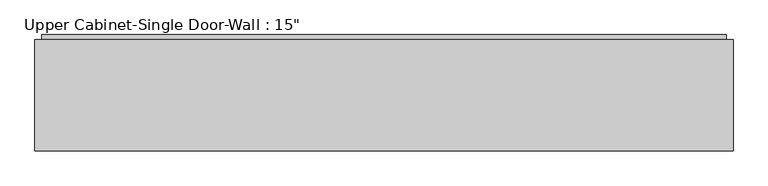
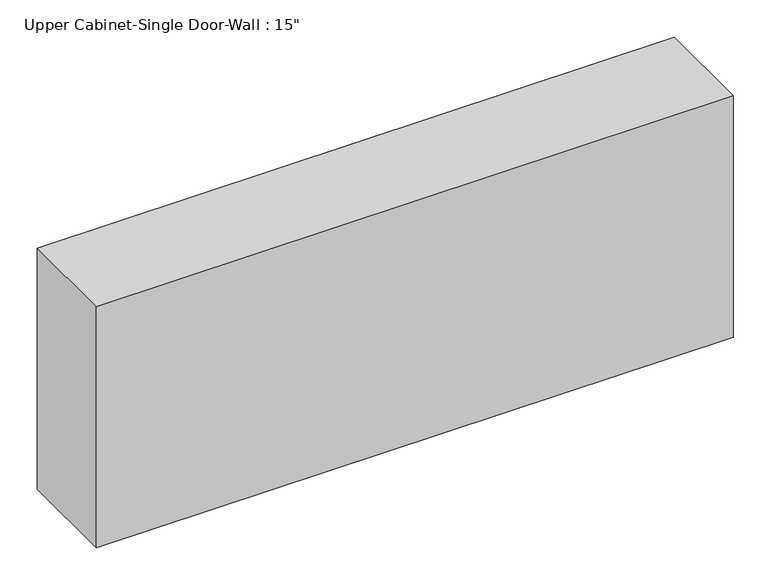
"""IFC4 building model written with IfcOpenShell, lengths in millimetres: furniture geometry."""

import ifcopenshell
import ifcopenshell.guid

model = None  # the IFC model being written
_history = None  # IfcOwnerHistory: only IFC2X3 demands one
_inside = {}  # id of a spatial element -> (the spatial element, [elements in it])
_under = {}  # id of a project, library or spatial element -> (it, [spatial elements below it])
_declared = {}  # id of a project -> (the project, [libraries it declares])
_typed = {}  # id of a type object -> (the type object, [elements of that type])
_made_of = {}  # id of a material, layer set ... -> (it, [elements and type objects made of it])


def new_model(schema):
    """Start an empty IFC model of exactly this schema.

    Asked for "IFC4X3", IfcOpenShell would pick the latest addendum, in which some entities
    have other attributes; the version numbers below select the first issue.
    IFC2X3 requires an IfcOwnerHistory on every rooted entity: one is made here for all.
    """
    global model, _history
    if schema == "IFC4X3":
        model = ifcopenshell.file(schema_version=(4, 3, 0, 0))
    else:
        model = ifcopenshell.file(schema=schema)
    _inside.clear()
    _under.clear()
    _declared.clear()
    _typed.clear()
    _made_of.clear()
    _history = None
    if model.schema == "IFC2X3":
        org = make("IfcOrganization", Name="unknown")
        user = make(
            "IfcPersonAndOrganization",
            ThePerson=make("IfcPerson", FamilyName="unknown"),
            TheOrganization=org,
        )
        app = make(
            "IfcApplication",
            ApplicationDeveloper=org,
            Version="unknown",
            ApplicationFullName="unknown",
            ApplicationIdentifier="unknown",
        )
        _history = make(
            "IfcOwnerHistory",
            OwningUser=user,
            OwningApplication=app,
            ChangeAction="ADDED",
            CreationDate=0,
        )
    return model


def make(cls, **values):
    """One entity of the class cls with the attributes given. An attribute that is None is left unset."""
    return model.create_entity(
        cls, **{name: value for name, value in values.items() if value is not None}
    )


def rooted(cls, **values):
    """An entity with a GlobalId (a new one), such as an element, a storey or a relation."""
    return make(cls, GlobalId=ifcopenshell.guid.new(), OwnerHistory=_history, **values)


def si_unit(unit_type, name, prefix=None):
    """IfcSIUnit, for example si_unit("LENGTHUNIT", "METRE", prefix="MILLI")."""
    return make("IfcSIUnit", UnitType=unit_type, Prefix=prefix, Name=name)


def assignment(units):
    """IfcUnitAssignment: the units of a project."""
    return None if units is None else make("IfcUnitAssignment", Units=units)


def point(xyz):
    """IfcCartesianPoint."""
    return None if xyz is None else make("IfcCartesianPoint", Coordinates=xyz)


def direction(xyz):
    """IfcDirection."""
    return None if xyz is None else make("IfcDirection", DirectionRatios=xyz)


def frame(location, z_axis=None, x_axis=None):
    """IfcAxis2Placement3D, a coordinate frame: its origin and axes. An axis left out is left unset."""
    return make(
        "IfcAxis2Placement3D",
        Location=point(location),
        Axis=direction(z_axis),
        RefDirection=direction(x_axis),
    )


def origin():
    """The frame at (0, 0, 0) with its axes left unset."""
    return frame((0.0, 0.0, 0.0))


def place(relative_to, where):
    """IfcLocalPlacement: puts the frame where relative to a parent placement (None: the world)."""
    return make(
        "IfcLocalPlacement", PlacementRelTo=relative_to, RelativePlacement=where
    )


def context(
    kind, dimensions, precision=None, world=None, true_north=None, identifier=None
):
    """IfcGeometricRepresentationContext, for example the 3D "Model" context."""
    return make(
        "IfcGeometricRepresentationContext",
        ContextIdentifier=identifier,
        ContextType=kind,
        CoordinateSpaceDimension=dimensions,
        Precision=precision,
        WorldCoordinateSystem=world,
        TrueNorth=true_north,
    )


def project(units=None, contexts=None):
    """IfcProject with its units and contexts."""
    return rooted(
        "IfcProject",
        Name="project",
        RepresentationContexts=contexts,
        UnitsInContext=assignment(units),
    )


def spatial(cls, under=None, at=None, **own):
    """A site, building, storey or space (cls), placed at a placement, below another one or the project."""
    s = rooted(cls, ObjectPlacement=at, **own)
    if under is not None:
        _under.setdefault(under.id(), (under, []))[1].append(s)
    return s


def polyline(points):
    """IfcPolyline through the points."""
    return make("IfcPolyline", Points=[point(p) for p in points])


def outline(outer, holes=None, kind="AREA"):
    """IfcArbitraryClosedProfileDef: a profile drawn as a closed curve; with holes, ...WithVoids."""
    if holes is None:
        return make("IfcArbitraryClosedProfileDef", ProfileType=kind, OuterCurve=outer)
    return make(
        "IfcArbitraryProfileDefWithVoids",
        ProfileType=kind,
        OuterCurve=outer,
        InnerCurves=holes,
    )


def extrude(swept, where, along, depth):
    """IfcExtrudedAreaSolid: the profile swept, set in the frame where, extruded along a direction by depth."""
    return make(
        "IfcExtrudedAreaSolid",
        SweptArea=swept,
        Position=where,
        ExtrudedDirection=direction(along),
        Depth=depth,
    )


def faces_of(points, faces, orient=None, outer=None):
    """IfcFace entities. A face is a list of loops; a loop is a list of indices into points, from 0.

    orient and outer hold one flag for each loop. By default every Orientation is true, the
    first loop of a face is its IfcFaceOuterBound and the others are IfcFaceBound.
    """
    made = []
    for i, loops in enumerate(faces):
        bounds = []
        for j, loop in enumerate(loops):
            is_outer = j == 0 if outer is None else outer[i][j]
            bounds.append(
                make(
                    "IfcFaceOuterBound" if is_outer else "IfcFaceBound",
                    Bound=make("IfcPolyLoop", Polygon=[points[k] for k in loop]),
                    Orientation=True if orient is None else orient[i][j],
                )
            )
        made.append(make("IfcFace", Bounds=bounds))
    return made


def faceted_brep(points, faces, orient=None, outer=None, voids=None):
    """IfcFacetedBrep: a solid bounded by flat faces; with voids (closed shells), ...WithVoids."""
    shared = [point(p) for p in points]
    hull = make("IfcClosedShell", CfsFaces=faces_of(shared, faces, orient, outer))
    if voids is None:
        return make("IfcFacetedBrep", Outer=hull)
    return make(
        "IfcFacetedBrepWithVoids",
        Outer=hull,
        Voids=[
            make(cls, CfsFaces=faces_of(shared, fs, o, b)) for cls, fs, o, b in voids
        ],
    )


def shape(context_of_items, identifier, shape_type, items):
    """IfcShapeRepresentation: the items that make up one representation, for example the "Body"."""
    return make(
        "IfcShapeRepresentation",
        ContextOfItems=context_of_items,
        RepresentationIdentifier=identifier,
        RepresentationType=shape_type,
        Items=items,
    )


def source(mapping_origin, context_of_items, identifier, shape_type, items):
    """IfcRepresentationMap: a shape defined once, which mapped items show again and again."""
    return make(
        "IfcRepresentationMap",
        MappingOrigin=mapping_origin,
        MappedRepresentation=shape(context_of_items, identifier, shape_type, items),
    )


def transform(
    local_origin,
    x_axis=None,
    y_axis=None,
    z_axis=None,
    scale=None,
    scale2=None,
    scale3=None,
    uniform=True,
):
    """IfcCartesianTransformationOperator3D, or its non-uniform kind. x_axis, y_axis, z_axis: its Axis1, 2, 3."""
    if uniform:
        return make(
            "IfcCartesianTransformationOperator3D",
            Axis1=direction(x_axis),
            Axis2=direction(y_axis),
            LocalOrigin=point(local_origin),
            Scale=scale,
            Axis3=direction(z_axis),
        )
    return make(
        "IfcCartesianTransformationOperator3DnonUniform",
        Axis1=direction(x_axis),
        Axis2=direction(y_axis),
        LocalOrigin=point(local_origin),
        Scale=scale,
        Axis3=direction(z_axis),
        Scale2=scale2,
        Scale3=scale3,
    )


def mapped(mapping_source, mapping_target):
    """IfcMappedItem: shows the shape of a source again, moved by a transform."""
    return make(
        "IfcMappedItem", MappingSource=mapping_source, MappingTarget=mapping_target
    )


def made_of(thing, what):
    """Note that an element or type object is made of a material, layer set ...; save() writes the relation."""
    if what is not None:
        _made_of.setdefault(what.id(), (what, []))[1].append(thing)
    return thing


def element(
    cls,
    number,
    at=None,
    inside=None,
    cuts=None,
    type_object=None,
    material=None,
    context=None,
    identifier="Body",
    shape_type=None,
    held_by="IfcProductDefinitionShape",
    body=None,
    shapes=None,
    **own,
):
    """One element of the class cls, such as IfcWall. Its Tag is "e" and its number.

    at: its placement. inside: the storey or other place that contains it. cuts: it is an
    opening in that element (IfcRelVoidsElement). A single representation is given by context,
    identifier, shape_type and body (its items); several are given by shapes. held_by: the class
    of the entity that holds the representations. save() writes the other relations.
    """
    e = rooted(cls, Tag="e%d" % number, ObjectPlacement=at, **own)
    if body is not None:
        shapes = [shape(context, identifier, shape_type, body)]
    if shapes is not None:
        e.Representation = make(held_by, Representations=shapes)
    if inside is not None:
        _inside.setdefault(inside.id(), (inside, []))[1].append(e)
    if cuts is not None:
        rooted(
            "IfcRelVoidsElement", RelatingBuildingElement=cuts, RelatedOpeningElement=e
        )
    if type_object is not None:
        _typed.setdefault(type_object.id(), (type_object, []))[1].append(e)
    return made_of(e, material)


def aggregate(whole, parts):
    """IfcRelAggregates: a whole, such as a stair, and the parts it consists of."""
    return rooted("IfcRelAggregates", RelatingObject=whole, RelatedObjects=parts)


def save(model, path):
    """Write the relations noted so far, then the file.

    IfcRelAggregates (storeys below a building ...), IfcRelContainedInSpatialStructure (elements
    in a storey), IfcRelDefinesByType, IfcRelAssociatesMaterial and IfcRelDeclares: one each for
    every whole, place, type object, material and project.
    """
    for whole, parts in _under.values():
        aggregate(whole, parts)
    for where, things in _inside.values():
        rooted(
            "IfcRelContainedInSpatialStructure",
            RelatedElements=things,
            RelatingStructure=where,
        )
    for kind, things in _typed.values():
        rooted("IfcRelDefinesByType", RelatedObjects=things, RelatingType=kind)
    for what, things in _made_of.values():
        rooted("IfcRelAssociatesMaterial", RelatedObjects=things, RelatingMaterial=what)
    for by, libraries in _declared.values():
        rooted("IfcRelDeclares", RelatingContext=by, RelatedDefinitions=libraries)
    model.write(path)


def furniture_cd85d869(model_context):
    return source(origin(), model_context, "Body", "SolidModel", [
        faceted_brep([(-1644.2248854, 57.15, 2133.6), (-1644.2248854, 57.15, 1371.6), (258.3711628, 57.15, 1371.6), (258.3711628, 57.15, 2133.6), (-1644.2248854, 361.95, 2133.6), (258.3711628, 361.95, 2133.6), (258.3711628, 361.95, 1371.6), (-1644.2248854, 361.95, 1371.6), (-1625.1748854, 361.95, 2114.55), (-1625.1748854, 361.95, 1390.65), (239.3211628, 361.95, 1390.65), (239.3211628, 361.95, 2114.55), (239.3211628, 76.2, 2114.55), (-1625.1748854, 76.2, 2114.55), (239.3211628, 76.2, 1390.65), (-1625.1748854, 76.2, 1390.65)], [[[0, 1, 2, 3]], [[4, 5, 6, 7], [8, 9, 10, 11]], [[1, 0, 4, 7]], [[2, 1, 7, 6]], [[3, 2, 6, 5]], [[0, 3, 5, 4]], [[8, 11, 12, 13]], [[11, 10, 14, 12]], [[10, 9, 15, 14]], [[9, 8, 13, 15]], [[13, 12, 14, 15]]]),
        extrude(outline(polyline([(-1625.1748854, 374.65), (239.3211628, 374.65), (239.3211628, 342.9), (-1625.1748854, 342.9), (-1625.1748854, 374.65)])), frame((0.0, 0.0, 1390.65), z_axis=(0.0, 0.0, 1.0), x_axis=(1.0, 0.0, 0.0)), (0.0, 0.0, 1.0), 723.9),
    ])


if __name__ == "__main__":
    model = new_model("IFC4")
    model_context = context("Model", 3, world=origin())
    ifc_project = project(units=[si_unit("LENGTHUNIT", "METRE", prefix="MILLI")], contexts=[model_context])
    site = spatial("IfcSite", under=ifc_project)
    building = spatial("IfcBuilding", under=site)
    placement = place(None, origin())
    furniture_shape = furniture_cd85d869(model_context)
    element("IfcFurniture", 1, ObjectType="Upper Cabinet-Single Door-Wall : 15\"", at=placement, inside=building, context=model_context, shape_type="MappedRepresentation", body=[
        mapped(furniture_shape, transform((0.0, 0.0, 0.0), x_axis=(1.0, 0.0, 0.0), y_axis=(0.0, 1.0, 0.0), z_axis=(0.0, 0.0, 1.0))),
    ])
    save(model, "model.ifc")
